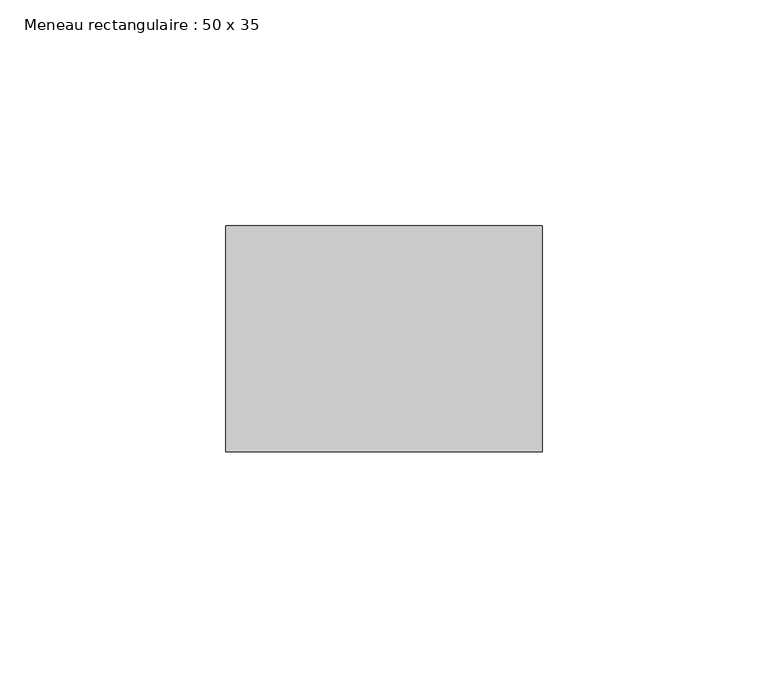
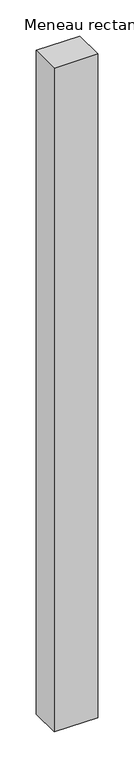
"""IFC4 building model written with IfcOpenShell, lengths in millimetres: member geometry, Meneau rectangulaire : 50 x 35."""

from ifc_helpers import new_model, si_unit, frame, origin, place, context, project, spatial, polyline, outline, extrude, source, transform, mapped, element, save


def meneau_rectangulaire_50_x_35_3c108918(model_context):
    return source(origin(), model_context, "Body", "SweptSolid", [
        extrude(outline(polyline([(35.0, 0.0), (35.0, -50.0), (-35.0, -50.0), (-35.0, 0.0), (35.0, 0.0)])), frame((0.0, 0.0, -1125.0), z_axis=(0.0, 0.0, 1.0), x_axis=(1.0, 0.0, 0.0)), (0.0, 0.0, 1.0), 1125.0),
    ])


if __name__ == "__main__":
    model = new_model("IFC4")
    model_context = context("Model", 3, world=origin())
    ifc_project = project(units=[si_unit("LENGTHUNIT", "METRE", prefix="MILLI")], contexts=[model_context])
    site = spatial("IfcSite", under=ifc_project)
    building = spatial("IfcBuilding", under=site)
    placement = place(None, origin())
    meneau_rectangulaire_50_x_35_shape = meneau_rectangulaire_50_x_35_3c108918(model_context)
    element("IfcMember", 1, ObjectType="Meneau rectangulaire : 50 x 35", at=placement, inside=building, context=model_context, shape_type="MappedRepresentation", body=[
        mapped(meneau_rectangulaire_50_x_35_shape, transform((0.0, 0.0, 0.0), x_axis=(1.0, 0.0, 0.0), y_axis=(0.0, 1.0, 0.0), z_axis=(0.0, 0.0, 1.0))),
    ])
    save(model, "model.ifc")
